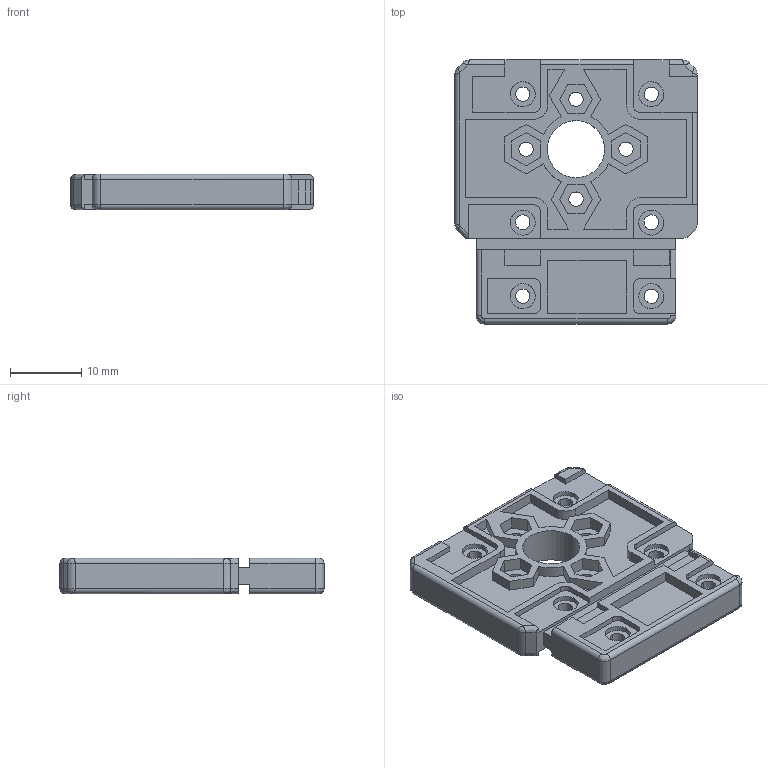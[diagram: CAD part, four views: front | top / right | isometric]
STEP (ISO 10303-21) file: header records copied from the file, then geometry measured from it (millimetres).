
FILE_DESCRIPTION(/* description */ (''),/* implementation_level */ '2;1');
FILE_NAME(/* name */ '[DRB-0005] Ankle plate',/* time_stamp */ '2012-01-13T10:54:36+09:00',/* author */ (''),/* organization */ (''),/* preprocessor_version */ 'ST-DEVELOPER v10',/* originating_system */ '',/* authorisation */ '');
FILE_SCHEMA (('AUTOMOTIVE_DESIGN_CC2'));
Length unit declared in the file: millimetre
Products named in the file (2): 1; 2
Assembly tree (1 placements, depth 2):
  1
    2
Bounding box: 34 x 37 x 5 mm (x, y, z)
Volume: 3650.7 mm3; surface area: 4263.2 mm2
Topology: 1 solids, 1 shells, 372 faces, 985 edges, 644 vertices
Faces by surface type: plane 245, bspline 127
Entity records: 11214 total; most frequent: CARTESIAN_POINT 4823, ORIENTED_EDGE 1970, EDGE_CURVE 985, B_SPLINE_CURVE_WITH_KNOTS 781, VERTEX_POINT 644, EDGE_LOOP 423, ADVANCED_FACE 372, FACE_OUTER_BOUND 372
